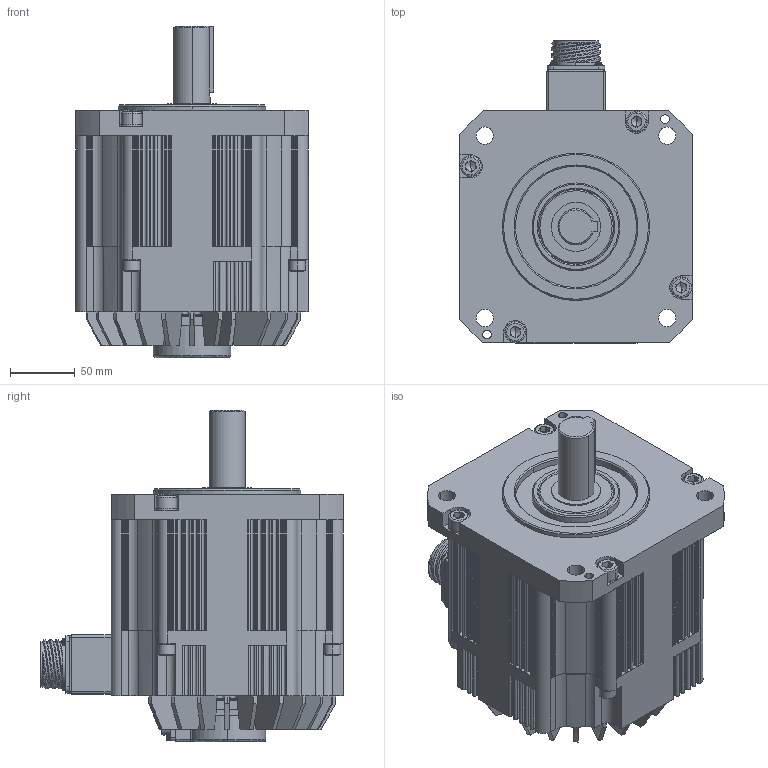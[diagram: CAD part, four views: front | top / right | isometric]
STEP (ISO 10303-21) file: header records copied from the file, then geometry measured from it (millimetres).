
FILE_DESCRIPTION (( 'STEP AP203' ), '1' );
FILE_NAME ('TSM3610N2373E710.STEP', '2018-07-04T09:07:47', ( '' ), ( '' ), 'SwSTEP 2.0', 'SolidWorks 2017', '' );
FILE_SCHEMA (( 'CONFIG_CONTROL_DESIGN' ));
Products named in the file (1): TSM3610N2373E710
Bounding box: 180 x 234.5 x 257 mm (x, y, z)
Volume: 4592441.7 mm3; surface area: 299068.1 mm2
Topology: 1 solids, 20 shells, 2441 faces, 6583 edges, 4250 vertices
Faces by surface type: plane 1314, cylinder 636, bspline 356, cone 127, torus 8
Entity records: 101610 total; most frequent: CARTESIAN_POINT 44039, ORIENTED_EDGE 13066, DIRECTION 10138, EDGE_CURVE 6533, VERTEX_POINT 4250, LINE 4028, VECTOR 4028, AXIS2_PLACEMENT_3D 3055
